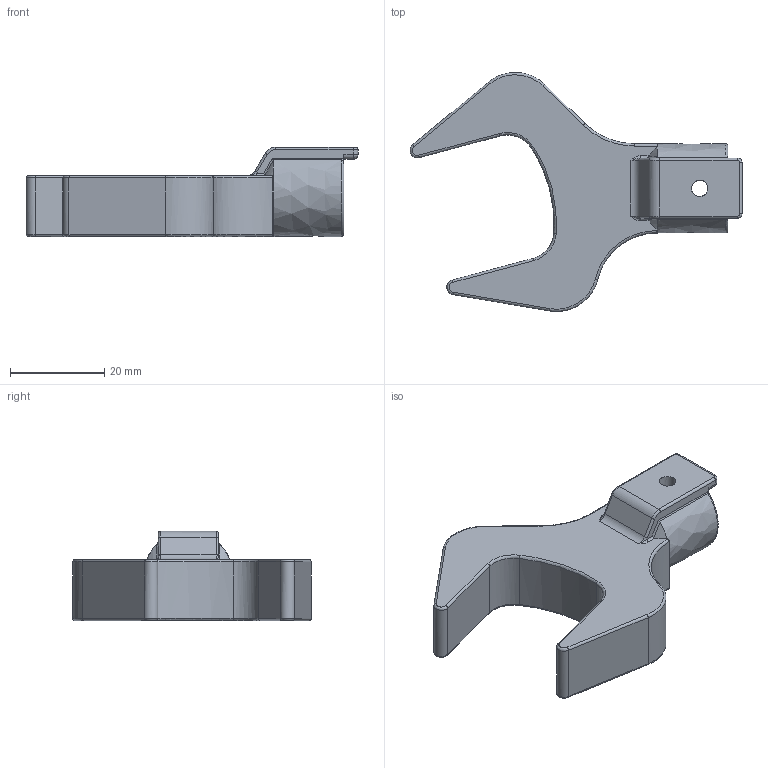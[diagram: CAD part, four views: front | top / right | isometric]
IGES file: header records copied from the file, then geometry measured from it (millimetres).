
Global section: file name: SH12DX27; native system: Autodesk Inventor 2016; preprocessor: unknown; author: Q532; date: 20151029.190118; units: millimetre
Bounding box: 70.63 x 50.84 x 19 mm (x, y, z)
Volume: 18077.2 mm3; surface area: 6719.4 mm2
Topology: 1 solids, 1 shells, 102 faces, 254 edges, 151 vertices
Faces by surface type: bspline 102
